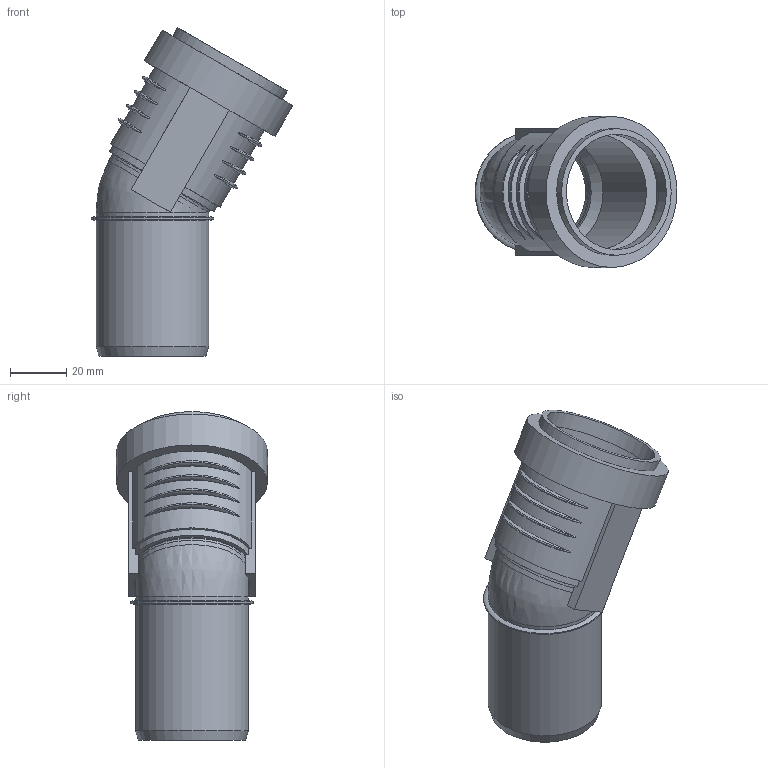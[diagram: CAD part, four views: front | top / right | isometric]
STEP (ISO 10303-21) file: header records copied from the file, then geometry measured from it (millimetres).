
FILE_DESCRIPTION(/* description */ (''),/* implementation_level */ '2;1');
FILE_NAME(/* name */ 'Z:\Geberit\Export\NewStep\390121.stp',/* time_stamp */ '2014-04-02T08:08:58+02:00',/* author */ ('ML'),/* organization */ (''),/* preprocessor_version */ 'ST-DEVELOPER v15.2',/* originating_system */ 'Autodesk Inventor 2014',/* authorisation */ '');
FILE_SCHEMA (('AUTOMOTIVE_DESIGN { 1 0 10303 214 3 1 1 }'));
Length unit declared in the file: millimetre
Products named in the file (3): 861317; 861400; 390121
Bounding box: 71.73 x 53.7 x 116.83 mm (x, y, z)
Volume: 34708 mm3; surface area: 35359.7 mm2
Topology: 2 solids, 2 shells, 68 faces, 162 edges, 109 vertices
Faces by surface type: torus 28, plane 19, cylinder 18, cone 2, bspline 1
Full cylindrical faces by diameter (mm): 36.15 x3, 40.15 x4, 41 x2, 45 x1, 49.7 x1, 53.7 x1
Entity records: 2598 total; most frequent: CARTESIAN_POINT 1022, DIRECTION 290, ORIENTED_EDGE 278, EDGE_CURVE 139, AXIS2_PLACEMENT_3D 127, VERTEX_POINT 106, EDGE_LOOP 103, STYLED_ITEM 70
